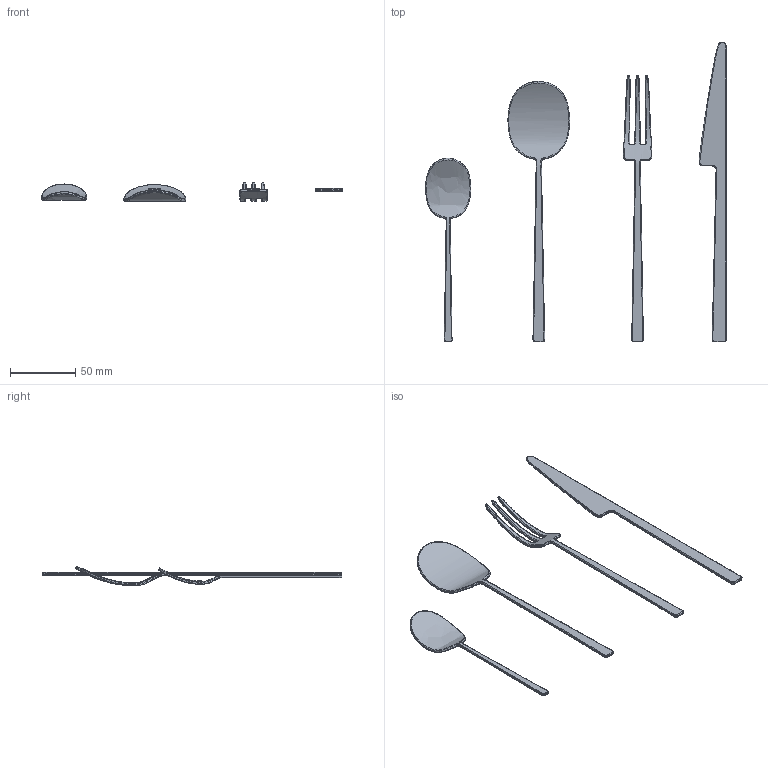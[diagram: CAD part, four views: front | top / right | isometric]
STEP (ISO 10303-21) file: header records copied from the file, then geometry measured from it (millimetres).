
FILE_DESCRIPTION(/* description */ (''),/* implementation_level */ '2;1');
FILE_NAME(/* name */ 'Kogei Cutlery',/* time_stamp */ '2024-05-22T16:18:35+02:00',/* author */ (''),/* organization */ (''),/* preprocessor_version */ 'ST-DEVELOPER v16.5',/* originating_system */ 'Rhino 7.37',/* authorisation */ '');
FILE_SCHEMA (('CONFIG_CONTROL_DESIGN'));
Length unit declared in the file: millimetre
Products named in the file (1): Document
Bounding box: 230.79 x 230.01 x 14.54 mm (x, y, z)
Volume: 15651.9 mm3; surface area: 21885.3 mm2
Topology: 3 solids, 4 shells, 125 faces, 255 edges, 126 vertices
Faces by surface type: bspline 125
Entity records: 21844 total; most frequent: CARTESIAN_POINT 18767, ORIENTED_EDGE 486, PCURVE 486, DEFINITIONAL_REPRESENTATION 486, B_SPLINE_CURVE_WITH_KNOTS 482, SURFACE_CURVE 255, EDGE_CURVE 255, VERTEX_POINT 126
